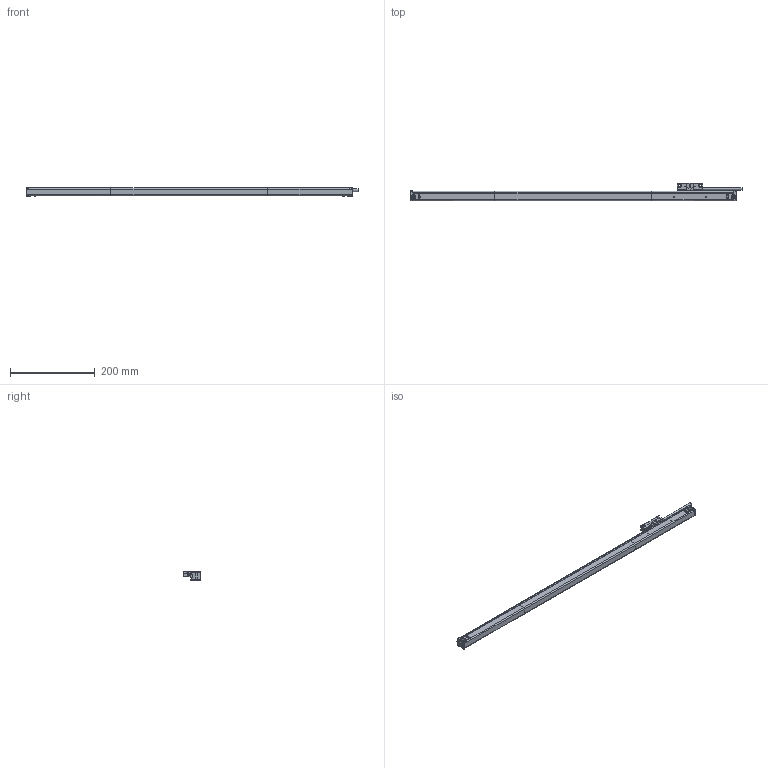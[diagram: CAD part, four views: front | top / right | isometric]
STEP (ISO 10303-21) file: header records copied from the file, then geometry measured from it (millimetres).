
FILE_DESCRIPTION( ( 'STEP AP203' ), '1' );
FILE_NAME( 'N:/Engineering/CAD_Solid/Magnescale/GBER/GB-065ER_SR138-065R.stp', '2013-03-14T10:06:47', ( ' ' ), ( ' ' ), 'XStep 1.0', ' ', ' ' );
FILE_SCHEMA( ( 'CONFIG_CONTROL_DESIGN) ( )' ) );
Length unit declared in the file: metre
Products named in the file (1): 1
Bounding box: 782.5 x 42 x 21 mm (x, y, z)
Surface area: 79932.5 mm2 (no closed solid volume)
Topology: 0 solids, 282 shells, 282 faces, 1508 edges, 1473 vertices
Faces by surface type: plane 179, cylinder 83, torus 12, cone 8
Full cylindrical faces by diameter (mm): 2.013 x2, 2.113 x2, 3.242 x2, 4 x8, 4.8 x1, 5 x2, 6 x1, 9.8 x2, 10 x2
Entity records: 14604 total; most frequent: CARTESIAN_POINT 3207, DIRECTION 2468, ORIENTED_EDGE 1462, EDGE_CURVE 1462, VERTEX_POINT 1462, LINE 1022, VECTOR 1022, AXIS2_PLACEMENT_3D 723
